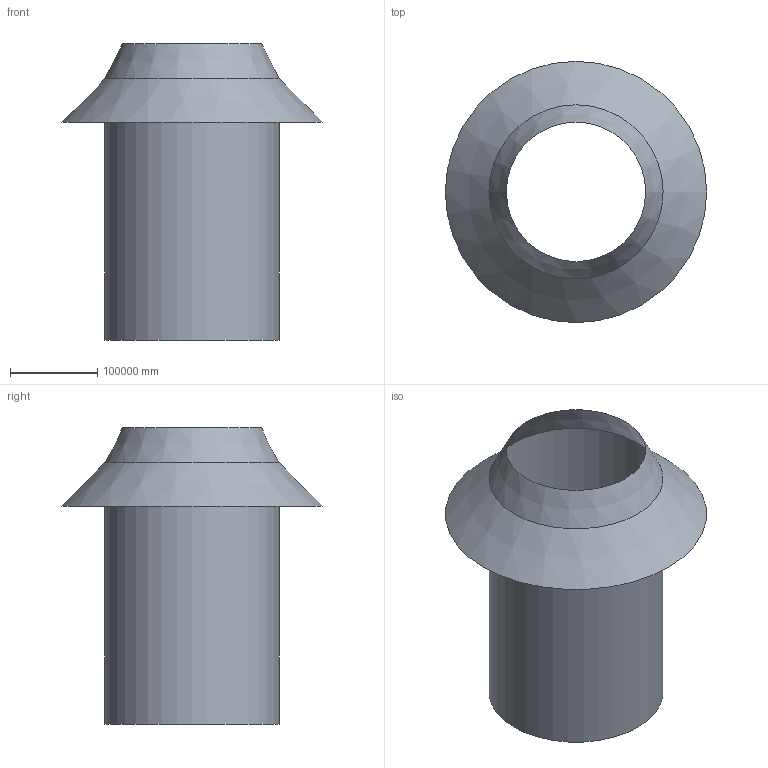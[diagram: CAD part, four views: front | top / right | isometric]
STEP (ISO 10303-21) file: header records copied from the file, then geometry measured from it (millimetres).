
FILE_DESCRIPTION(('Open CASCADE Model'),'2;1');
FILE_NAME('Open CASCADE Shape Model','2017-11-24T23:30:58',('Author'),( 'Open CASCADE'),'Open CASCADE STEP processor 7.1','Open CASCADE 7.1' ,'Unknown');
FILE_SCHEMA(('AUTOMOTIVE_DESIGN { 1 0 10303 214 1 1 1 1 }'));
Length unit declared in the file: metre
Products named in the file (1): Open CASCADE STEP translator 7.1 1
Bounding box: 300000 x 300000 x 340000 mm (x, y, z)
Surface area: 269320928974.1 mm2 (no closed solid volume)
Topology: 0 solids, 3 shells, 3 faces, 7 edges, 4 vertices
Faces by surface type: cone 2, cylinder 1
Full cylindrical faces by diameter (mm): 200000 x1
Entity records: 173 total; most frequent: DIRECTION 29, CARTESIAN_POINT 27, LINE 13, VECTOR 13, ORIENTED_EDGE 12, PCURVE 11, DEFINITIONAL_REPRESENTATION 11, AXIS2_PLACEMENT_3D 8
